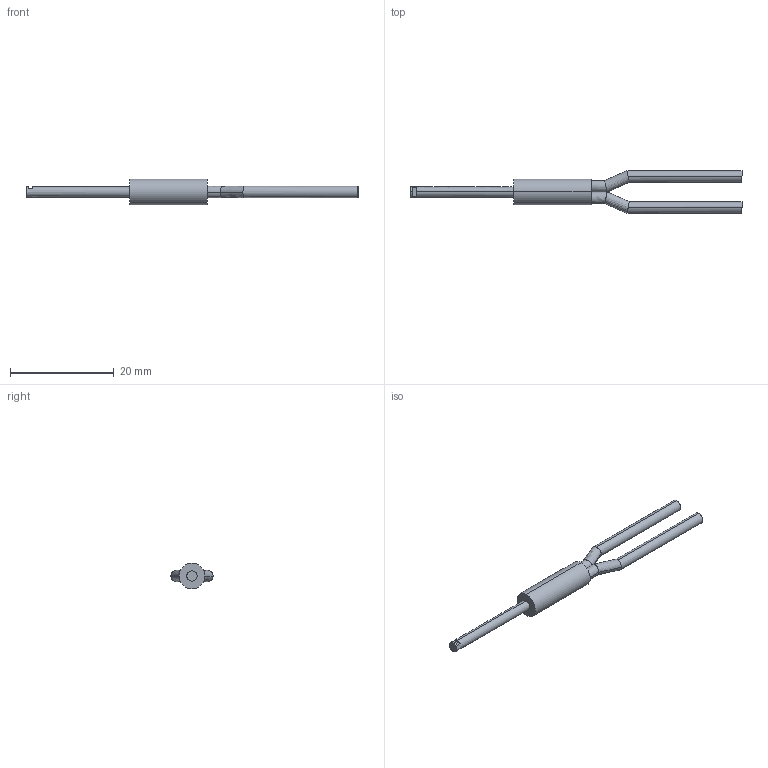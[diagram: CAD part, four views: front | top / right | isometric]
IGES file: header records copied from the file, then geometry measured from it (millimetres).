
Start section: SolidWorks IGES FILE using analytic representation for surfaces
Global section: file name: C:\Documents and Settings\yk0651\デスクトップ\3D_catalog_050904\0_IGES\FD-SFM2SV2.IGS; native system: SolidWorks 2004 by SolidWorks Corporation; preprocessor: Version 5.3; author: yk0651; date: 050904.191844; units: millimetre
Bounding box: 64.15 x 8.19 x 5 mm (x, y, z)
Volume: 581.6 mm3; surface area: 809.6 mm2
Topology: 1 solids, 1 shells, 24 faces, 53 edges, 34 vertices
Faces by surface type: revolution 16, plane 8
